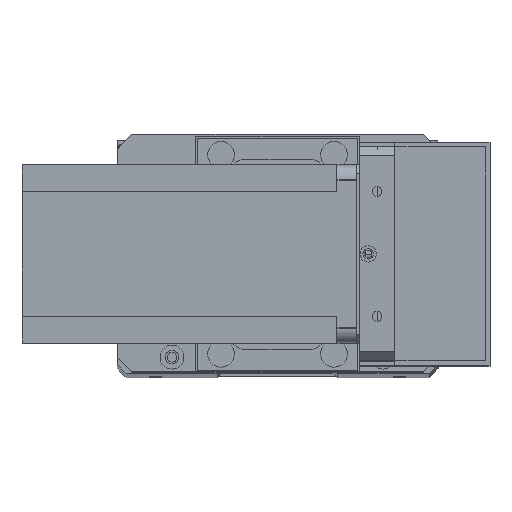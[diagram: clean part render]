
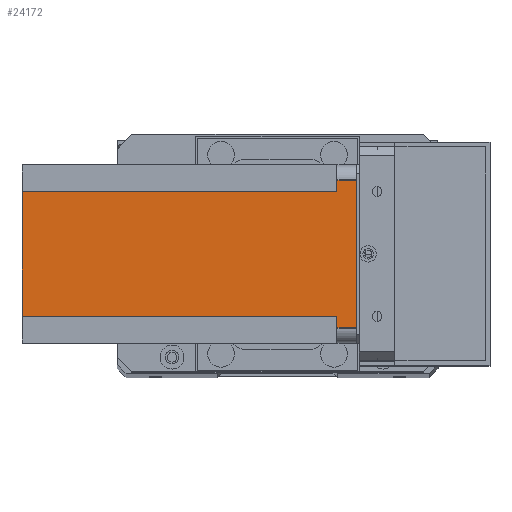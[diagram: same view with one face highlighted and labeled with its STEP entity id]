
A CAD part, top view. The second image highlights one B-rep face of the part: STEP entity #24172.
In plain terms, the highlighted planar face has unit normal (0, 0, 1) as drawn and (1, 0, 0) by its records, which use the part's own axes.
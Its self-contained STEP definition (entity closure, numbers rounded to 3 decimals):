
#76 = PLANE ( 'NONE',  #229 ) ;
#229 = AXIS2_PLACEMENT_3D ( 'NONE', #11554, #6938, #2393 ) ;
#446 = LINE ( 'NONE', #15680, #18893 ) ;
#583 = VECTOR ( 'NONE', #8111, 1000. ) ;
#1174 = CARTESIAN_POINT ( 'NONE',  ( 60., 5., -112.5 ) ) ;
#1339 = CARTESIAN_POINT ( 'NONE',  ( 60., 51., -112.5 ) ) ;
#1783 = EDGE_CURVE ( 'NONE', #2214, #5347, #28321, .T. ) ;
#1851 = DIRECTION ( 'NONE',  ( 0., 1., 0. ) ) ;
#2214 = VERTEX_POINT ( 'NONE', #11501 ) ;
#2393 = DIRECTION ( 'NONE',  ( 0., 1., 0. ) ) ;
#3052 = CARTESIAN_POINT ( 'NONE',  ( 60., 55., 0. ) ) ;
#3781 = LINE ( 'NONE', #19971, #28380 ) ;
#3796 = DIRECTION ( 'NONE',  ( 0., -1., 0. ) ) ;
#4742 = VECTOR ( 'NONE', #17349, 1000. ) ;
#5037 = EDGE_CURVE ( 'NONE', #9060, #22863, #22791, .T. ) ;
#5347 = VERTEX_POINT ( 'NONE', #1339 ) ;
#5810 = CARTESIAN_POINT ( 'NONE',  ( 60., 9., -112.5 ) ) ;
#5872 = ORIENTED_EDGE ( 'NONE', *, *, #13605, .F. ) ;
#6345 = ORIENTED_EDGE ( 'NONE', *, *, #20377, .F. ) ;
#6722 = LINE ( 'NONE', #22003, #583 ) ;
#6938 = DIRECTION ( 'NONE',  ( 1., 0., 0. ) ) ;
#7163 = ORIENTED_EDGE ( 'NONE', *, *, #23135, .T. ) ;
#7305 = EDGE_CURVE ( 'NONE', #9060, #2214, #3781, .T. ) ;
#7515 = CARTESIAN_POINT ( 'NONE',  ( 60., 9., -6.5 ) ) ;
#8111 = DIRECTION ( 'NONE',  ( 0., -1., 0. ) ) ;
#9060 = VERTEX_POINT ( 'NONE', #23318 ) ;
#9130 = EDGE_CURVE ( 'NONE', #16144, #22863, #9785, .T. ) ;
#9299 = EDGE_CURVE ( 'NONE', #16144, #27564, #29366, .T. ) ;
#9785 = LINE ( 'NONE', #14255, #27580 ) ;
#10999 = ORIENTED_EDGE ( 'NONE', *, *, #1783, .F. ) ;
#11073 = ORIENTED_EDGE ( 'NONE', *, *, #5037, .T. ) ;
#11101 = ORIENTED_EDGE ( 'NONE', *, *, #9130, .F. ) ;
#11501 = CARTESIAN_POINT ( 'NONE',  ( 60., 51., -6.5 ) ) ;
#11554 = CARTESIAN_POINT ( 'NONE',  ( 60., 0., -112.5 ) ) ;
#11605 = CARTESIAN_POINT ( 'NONE',  ( 60., 9., -112.5 ) ) ;
#13605 = EDGE_CURVE ( 'NONE', #24338, #27564, #6722, .T. ) ;
#14255 = CARTESIAN_POINT ( 'NONE',  ( 60., 0., 0. ) ) ;
#14517 = CARTESIAN_POINT ( 'NONE',  ( 60., 51., -112.5 ) ) ;
#14684 = VECTOR ( 'NONE', #27860, 1000. ) ;
#15651 = ORIENTED_EDGE ( 'NONE', *, *, #7305, .F. ) ;
#15680 = CARTESIAN_POINT ( 'NONE',  ( 60., 0., -112.5 ) ) ;
#16144 = VERTEX_POINT ( 'NONE', #25386 ) ;
#16532 = VERTEX_POINT ( 'NONE', #5810 ) ;
#16668 = FACE_OUTER_BOUND ( 'NONE', #28216, .T. ) ;
#16992 = CARTESIAN_POINT ( 'NONE',  ( 60., 55., -112.5 ) ) ;
#17349 = DIRECTION ( 'NONE',  ( 0., 0., -1. ) ) ;
#18893 = VECTOR ( 'NONE', #1851, 1000. ) ;
#18944 = DIRECTION ( 'NONE',  ( 0., 1., 0. ) ) ;
#19306 = DIRECTION ( 'NONE',  ( 0., 0., 1. ) ) ;
#19971 = CARTESIAN_POINT ( 'NONE',  ( 60., 60., -6.5 ) ) ;
#20377 = EDGE_CURVE ( 'NONE', #16532, #24338, #27056, .T. ) ;
#21425 = VECTOR ( 'NONE', #28406, 1000. ) ;
#22003 = CARTESIAN_POINT ( 'NONE',  ( 60., 0., -6.5 ) ) ;
#22791 = LINE ( 'NONE', #16992, #28192 ) ;
#22863 = VERTEX_POINT ( 'NONE', #3052 ) ;
#23135 = EDGE_CURVE ( 'NONE', #16532, #5347, #446, .T. ) ;
#23318 = CARTESIAN_POINT ( 'NONE',  ( 60., 55., -6.5 ) ) ;
#24172 = ADVANCED_FACE ( 'NONE', ( #16668 ), #76, .T. ) ;
#24338 = VERTEX_POINT ( 'NONE', #7515 ) ;
#25386 = CARTESIAN_POINT ( 'NONE',  ( 60., 5., 0. ) ) ;
#26673 = CARTESIAN_POINT ( 'NONE',  ( 60., 5., -6.5 ) ) ;
#27056 = LINE ( 'NONE', #11605, #14684 ) ;
#27564 = VERTEX_POINT ( 'NONE', #26673 ) ;
#27580 = VECTOR ( 'NONE', #18944, 1000. ) ;
#27860 = DIRECTION ( 'NONE',  ( 0., 0., 1. ) ) ;
#27998 = ORIENTED_EDGE ( 'NONE', *, *, #9299, .T. ) ;
#28192 = VECTOR ( 'NONE', #19306, 1000. ) ;
#28216 = EDGE_LOOP ( 'NONE', ( #15651, #11073, #11101, #27998, #5872, #6345, #7163, #10999 ) ) ;
#28321 = LINE ( 'NONE', #14517, #21425 ) ;
#28380 = VECTOR ( 'NONE', #3796, 1000. ) ;
#28406 = DIRECTION ( 'NONE',  ( 0., 0., -1. ) ) ;
#29366 = LINE ( 'NONE', #1174, #4742 ) ;
